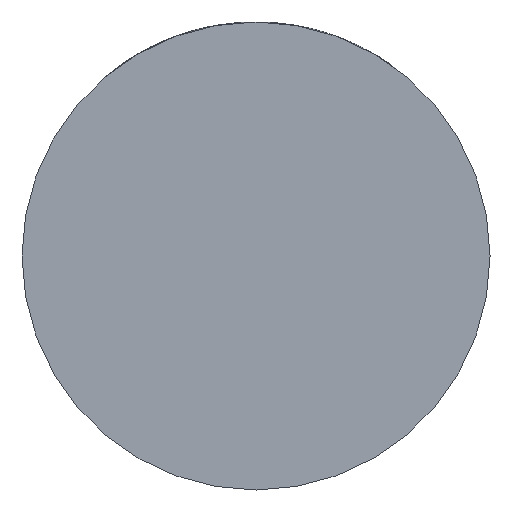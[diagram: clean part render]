
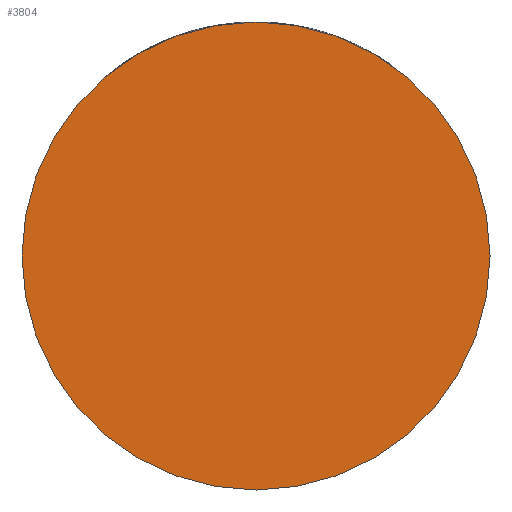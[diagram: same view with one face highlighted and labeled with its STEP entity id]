
A CAD part, front view. The second image highlights one B-rep face of the part: STEP entity #3804.
In plain terms, the highlighted planar face has unit normal (0, -1, 0).
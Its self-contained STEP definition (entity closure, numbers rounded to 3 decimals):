
#145 = CARTESIAN_POINT ( 'NONE',  ( 0., -36., 0. ) ) ;
#267 = CARTESIAN_POINT ( 'NONE',  ( 0., -36., 0. ) ) ;
#492 = DIRECTION ( 'NONE',  ( 1., 0., 0. ) ) ;
#522 = PLANE ( 'NONE',  #3524 ) ;
#569 = CARTESIAN_POINT ( 'NONE',  ( 39., -36., 0. ) ) ;
#638 = EDGE_CURVE ( 'NONE', #3564, #1476, #3528, .T. ) ;
#840 = EDGE_LOOP ( 'NONE', ( #3293, #2133 ) ) ;
#1275 = DIRECTION ( 'NONE',  ( 1., 0., 0. ) ) ;
#1330 = EDGE_CURVE ( 'NONE', #1476, #3564, #3634, .T. ) ;
#1476 = VERTEX_POINT ( 'NONE', #569 ) ;
#2133 = ORIENTED_EDGE ( 'NONE', *, *, #1330, .T. ) ;
#2258 = AXIS2_PLACEMENT_3D ( 'NONE', #3567, #3960, #3148 ) ;
#2267 = DIRECTION ( 'NONE',  ( 0., -1., 0. ) ) ;
#3148 = DIRECTION ( 'NONE',  ( 1., 0., 0. ) ) ;
#3293 = ORIENTED_EDGE ( 'NONE', *, *, #638, .T. ) ;
#3524 = AXIS2_PLACEMENT_3D ( 'NONE', #267, #4374, #1275 ) ;
#3528 = CIRCLE ( 'NONE', #4262, 39. ) ;
#3564 = VERTEX_POINT ( 'NONE', #4340 ) ;
#3567 = CARTESIAN_POINT ( 'NONE',  ( 0., -36., 0. ) ) ;
#3634 = CIRCLE ( 'NONE', #2258, 39. ) ;
#3662 = FACE_OUTER_BOUND ( 'NONE', #840, .T. ) ;
#3804 = ADVANCED_FACE ( 'NONE', ( #3662 ), #522, .T. ) ;
#3960 = DIRECTION ( 'NONE',  ( 0., -1., 0. ) ) ;
#4262 = AXIS2_PLACEMENT_3D ( 'NONE', #145, #2267, #492 ) ;
#4340 = CARTESIAN_POINT ( 'NONE',  ( -39., -36., 0. ) ) ;
#4374 = DIRECTION ( 'NONE',  ( 0., -1., 0. ) ) ;
